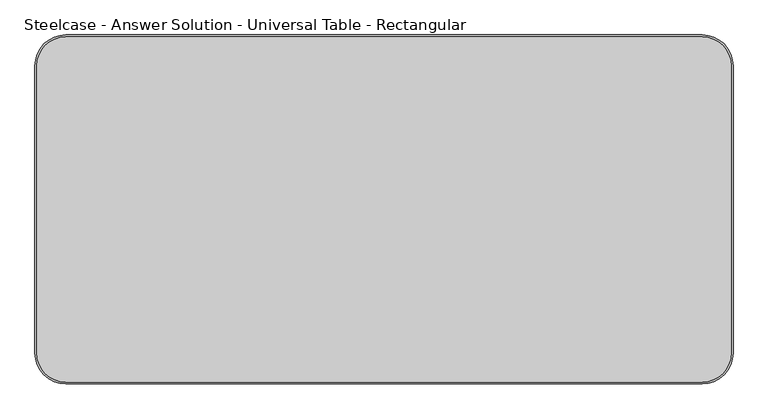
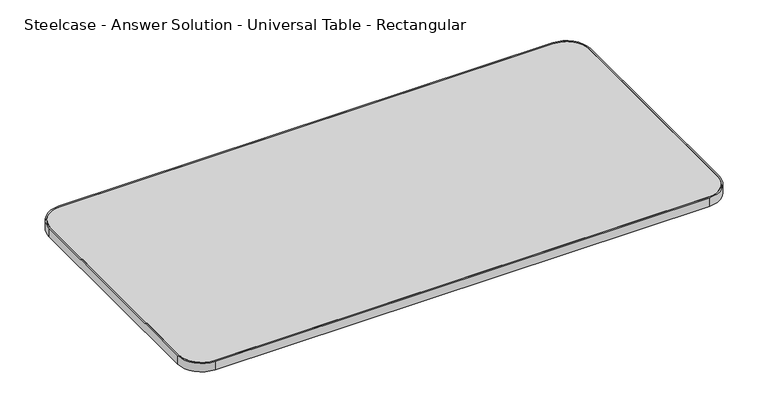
"""IFC4 building model written with IfcOpenShell, lengths in millimetres: furniture geometry, Steelcase - Answer Solution - Universal Table - Rectangular : 36D x 72W."""

from ifc_helpers import new_model, si_unit, point, frame, frame_2d, origin, place, context, project, spatial, polyline, circle_curve, trimmed, segment, composite_curve, outline, extrude, source, transform, mapped, element, save


def steelcase_answer_solution_universal_table_rectangular_5f4ec094(model_context):
    return source(origin(), model_context, "Body", "SweptSolid", [
        extrude(outline(composite_curve([segment(polyline([(5.08, -833.12), (5.08, -81.28)]), True, "CONTINUOUS"), segment(trimmed(circle_curve(frame_2d((81.28, -81.28)), 76.2), [point((5.08, -81.28))], [point((81.28, -5.08))], False, "CARTESIAN"), True, "CONTINUOUS"), segment(polyline([(81.28, -5.08), (1747.52, -5.08)]), True, "CONTINUOUS"), segment(trimmed(circle_curve(frame_2d((1747.52, -81.28)), 76.2), [point((1747.52, -5.08))], [point((1823.72, -81.28))], False, "CARTESIAN"), True, "CONTINUOUS"), segment(polyline([(1823.72, -81.28), (1823.72, -833.12)]), True, "CONTINUOUS"), segment(trimmed(circle_curve(frame_2d((1747.52, -833.12)), 76.2), [point((1823.72, -833.12))], [point((1747.52, -909.32))], False, "CARTESIAN"), True, "CONTINUOUS"), segment(polyline([(1747.52, -909.32), (81.28, -909.32)]), True, "CONTINUOUS"), segment(trimmed(circle_curve(frame_2d((81.28, -833.12)), 76.2), [point((81.28, -909.32))], [point((5.08, -833.12))], False, "CARTESIAN"), True, "CONTINUOUS")], self_intersect=False)), frame((0.0, 0.0, 668.274), z_axis=(0.0, 0.0, 1.0), x_axis=(1.0, 0.0, 0.0)), (0.0, 0.0, 1.0), 30.0990349),
        extrude(outline(composite_curve([segment(polyline([(81.28, 0.0), (1747.52, 0.0)]), True, "CONTINUOUS"), segment(trimmed(circle_curve(frame_2d((1747.52, -81.28)), 81.28), [point((1747.52, 0.0))], [point((1828.8, -81.28))], False, "CARTESIAN"), True, "CONTINUOUS"), segment(polyline([(1828.8, -81.28), (1828.8, -833.12)]), True, "CONTINUOUS"), segment(trimmed(circle_curve(frame_2d((1747.52, -833.12)), 81.28), [point((1828.8, -833.12))], [point((1747.52, -914.4))], False, "CARTESIAN"), True, "CONTINUOUS"), segment(polyline([(1747.52, -914.4), (81.28, -914.4)]), True, "CONTINUOUS"), segment(trimmed(circle_curve(frame_2d((81.28, -833.12)), 81.28), [point((81.28, -914.4))], [point((0.0, -833.12))], False, "CARTESIAN"), True, "CONTINUOUS"), segment(polyline([(0.0, -833.12), (0.0, -81.28)]), True, "CONTINUOUS"), segment(trimmed(circle_curve(frame_2d((81.28, -81.28)), 81.28), [point((0.0, -81.28))], [point((81.28, 0.0))], False, "CARTESIAN"), True, "CONTINUOUS")], self_intersect=False), holes=[composite_curve([segment(trimmed(circle_curve(frame_2d((81.28, -81.28)), 76.2), [point((81.28, -5.08))], [point((5.08, -81.28))], True, "CARTESIAN"), True, "CONTINUOUS"), segment(polyline([(5.08, -81.28), (5.08, -833.12)]), True, "CONTINUOUS"), segment(trimmed(circle_curve(frame_2d((81.28, -833.12)), 76.2), [point((5.08, -833.12))], [point((81.28, -909.32))], True, "CARTESIAN"), True, "CONTINUOUS"), segment(polyline([(81.28, -909.32), (1747.52, -909.32)]), True, "CONTINUOUS"), segment(trimmed(circle_curve(frame_2d((1747.52, -833.12)), 76.2), [point((1747.52, -909.32))], [point((1823.72, -833.12))], True, "CARTESIAN"), True, "CONTINUOUS"), segment(polyline([(1823.72, -833.12), (1823.72, -81.28)]), True, "CONTINUOUS"), segment(trimmed(circle_curve(frame_2d((1747.52, -81.28)), 76.2), [point((1823.72, -81.28))], [point((1747.52, -5.08))], True, "CARTESIAN"), True, "CONTINUOUS"), segment(polyline([(1747.52, -5.08), (81.28, -5.08)]), True, "CONTINUOUS")], self_intersect=False)]), frame((0.0, 0.0, 668.274), z_axis=(0.0, 0.0, 1.0), x_axis=(1.0, 0.0, 0.0)), (0.0, 0.0, 1.0), 30.0990349),
    ])


if __name__ == "__main__":
    model = new_model("IFC4")
    model_context = context("Model", 3, world=origin())
    ifc_project = project(units=[si_unit("LENGTHUNIT", "METRE", prefix="MILLI")], contexts=[model_context])
    site = spatial("IfcSite", under=ifc_project)
    building = spatial("IfcBuilding", under=site)
    placement = place(None, origin())
    steelcase_answer_solution_universal_table_rectangular_shape = steelcase_answer_solution_universal_table_rectangular_5f4ec094(model_context)
    element("IfcFurniture", 1, ObjectType="Steelcase - Answer Solution - Universal Table - Rectangular : 36D x 72W", at=placement, inside=building, context=model_context, shape_type="MappedRepresentation", body=[
        mapped(steelcase_answer_solution_universal_table_rectangular_shape, transform((0.0, 0.0, 0.0), x_axis=(1.0, 0.0, 0.0), y_axis=(0.0, 1.0, 0.0), z_axis=(0.0, 0.0, 1.0))),
    ])
    save(model, "model.ifc")
